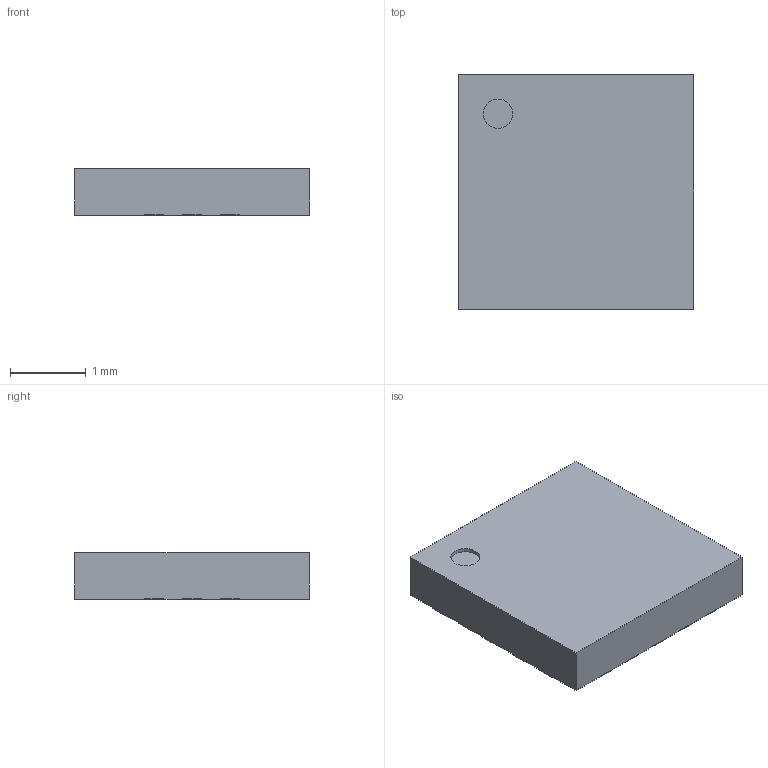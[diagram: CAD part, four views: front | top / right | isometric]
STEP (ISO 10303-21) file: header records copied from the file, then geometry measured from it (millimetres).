
FILE_DESCRIPTION (( 'STEP AP214' ), '1' );
FILE_NAME ('LGA20_3x3X0.61.STEP', '2024-09-16T12:59:26', ( '' ), ( '' ), 'SwSTEP 2.0', 'SolidWorks 2016', '' );
FILE_SCHEMA (( 'AUTOMOTIVE_DESIGN' ));
Length unit declared in the file: millimetre
Products named in the file (7): Open CASCADE STEP translator 7.5 49.3.1; Pin Shape1; Open CASCADE STEP translator 7.5 49.1; LGA20_3x3X0.61; Open CASCADE STEP translator 7.5 49.2.1; Body; Pin Shape
Assembly tree (24 placements, depth 3):
  LGA20_3x3X0.61
    Body
      Open CASCADE STEP translator 7.5 49.2.1
    Pin Shape1  x12
      Open CASCADE STEP translator 7.5 49.3.1
    Open CASCADE STEP translator 7.5 49.1
    Pin Shape  x8
Bounding box: 3.11 x 3.1 x 0.61 mm (x, y, z)
Volume: 5.9 mm3; surface area: 32 mm2
Topology: 22 solids, 22 shells, 165 faces, 360 edges, 240 vertices
Faces by surface type: plane 153, cylinder 12
Entity records: 1367 total; most frequent: DIRECTION 181, CARTESIAN_POINT 152, ORIENTED_EDGE 114, AXIS2_PLACEMENT_3D 67, EDGE_CURVE 57, LINE 47, VECTOR 47, VERTEX_POINT 38
